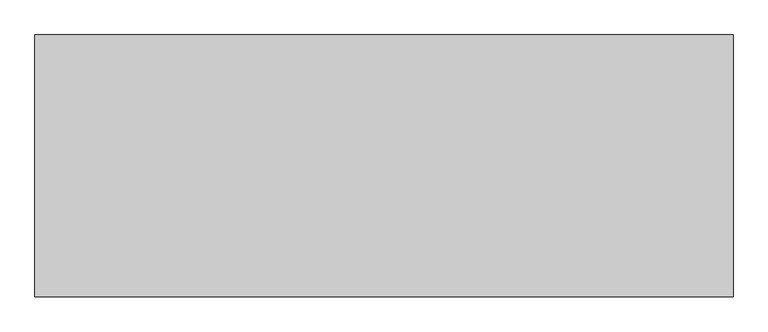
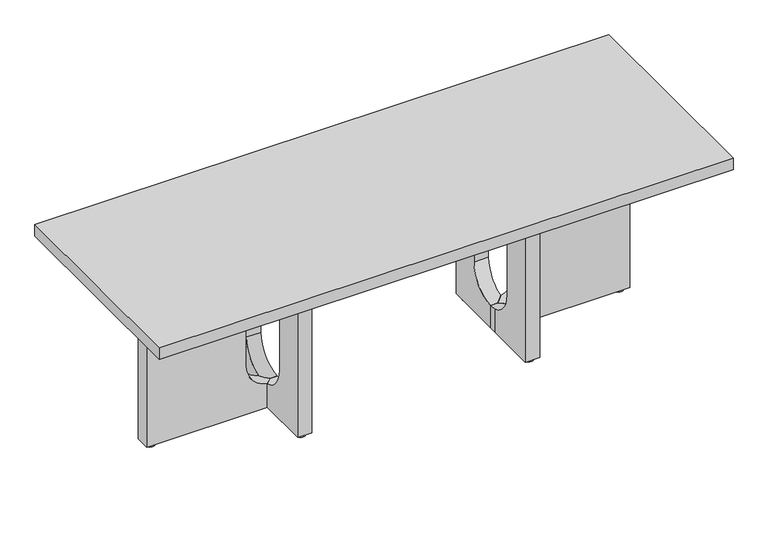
"""IFC4 building model written with IfcOpenShell, lengths in millimetres: furniture geometry, Audo Copenhagen - Androgyne - Lounge Table Stone : Audo Copenhagen - Androgyne - Lounge Table Stone."""

from ifc_helpers import new_model, si_unit, point, frame, frame_2d, origin, origin_with_axes, place, context, project, spatial, polyline, circle_curve, ellipse_curve, trimmed, segment, composite_curve, outline, extrude, source, transform, mapped, element, save
from ifc_brep_helpers import plane_surface, revolved_surface, advanced_brep


def furniture_bf1a82d5(model_context):
    return source(origin(), model_context, "Body", "SolidModel", [
        advanced_brep(
        [(253.0, -125.0, 362.0), (253.0, -14.9999983, 362.0), (237.9999999, -2.6e-06, 362.0), (223.0, -2.6e-06, 362.0), (223.0, -16.0000002, 362.0), (223.0, -125.0, 362.0), (253.0, -125.0, 7.0), (223.0, -125.0, 7.0), (223.0, -16.0000002, 7.0), (223.0, -2.6e-06, 7.0), (237.9999999, -2.6e-06, 7.0), (253.0, -14.9999983, 7.0), (253.0, -14.9999983, 58.9052494), (253.0, -60.0000001, 117.0), (253.0, -60.0000001, 251.0), (253.0, -14.9999983, 309.0947507), (223.0, -16.0000002, 308.8273292), (223.0, -60.0000001, 251.0), (223.0, -60.0000001, 117.0), (223.0, -16.0000002, 59.1726709), (237.9999999, -2.6e-06, 311.0), (237.9999999, -2.6e-06, 57.0), (223.0, -2.6e-06, 311.0), (223.0, -2.6e-06, 57.0)],
        [
            (0, 1),
            (1, 2),
            (2, 3),
            (3, 4),
            (4, 5),
            (5, 0),
            (6, 7),
            (7, 8),
            (8, 9),
            (9, 10),
            (10, 11),
            (11, 6),
            (0, 6),
            (11, 12),
            (12, 13, circle_curve(frame((253.0, 0.0, 117.0), z_axis=(-1.0, 0.0, 0.0), x_axis=(0.0, 1.0, 0.0)), 60.0)),
            (13, 14),
            (14, 15, circle_curve(frame((253.0, 0.0, 251.0), z_axis=(-1.0, 0.0, 0.0), x_axis=(0.0, 1.0, 0.0)), 60.0)),
            (15, 1),
            (4, 16),
            (16, 17, circle_curve(frame((223.0, 0.0, 251.0), z_axis=(1.0, 0.0, 0.0), x_axis=(0.0, 1.0, 0.0)), 60.0)),
            (17, 18),
            (18, 19, circle_curve(frame((223.0, 0.0, 117.0), z_axis=(1.0, 0.0, 0.0), x_axis=(0.0, 1.0, 0.0)), 60.0)),
            (19, 8),
            (7, 5),
            (15, 20, ellipse_curve(frame((237.9999973, 0.0, 251.0), z_axis=(-0.707106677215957, -0.7071068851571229, 0.0), x_axis=(0.7071068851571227, -0.7071066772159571, 0.0)), 84.8528263, 60.0)),
            (20, 2),
            (10, 21),
            (21, 12, ellipse_curve(frame((237.9999973, 0.0, 117.0), z_axis=(-0.707106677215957, -0.7071068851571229, 0.0), x_axis=(0.7071068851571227, -0.7071066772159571, 0.0)), 84.8528263, 60.0)),
            (3, 22),
            (22, 16, circle_curve(frame((223.0, 0.0, 251.0), z_axis=(1.0, 0.0, 0.0), x_axis=(0.0, 1.0, 0.0)), 60.0)),
            (19, 23, circle_curve(frame((223.0, 0.0, 117.0), z_axis=(1.0, 0.0, 0.0), x_axis=(0.0, 1.0, 0.0)), 60.0)),
            (23, 9),
            (20, 22),
            (23, 21),
            (18, 13),
            (17, 14),
        ],
        [
            plane_surface(frame((253.0, -444.0000002, 362.0), z_axis=(0.0, 0.0, 1.0), x_axis=(0.0, 1.0, 0.0))),
            plane_surface(frame((253.0, -444.0000002, 7.0), z_axis=(0.0, 0.0, -1.0), x_axis=(0.0, -1.0, 0.0))),
            plane_surface(frame((253.0, -125.0, 362.0), z_axis=(1.0, 0.0, 0.0), x_axis=(0.0, 0.0, -1.0))),
            plane_surface(frame((223.0, -16.0000002, 362.0), z_axis=(-1.0, 0.0, 0.0), x_axis=(0.0, 0.0, -1.0))),
            plane_surface(frame((223.0, -125.0, 362.0), z_axis=(0.0, -1.0, 0.0), x_axis=(0.0, 0.0, -1.0))),
            plane_surface(frame((253.0, -14.9999983, 362.0), z_axis=(0.707106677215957, 0.7071068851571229, 0.0), x_axis=(0.0, 0.0, -1.0))),
            plane_surface(frame((223.0, -2.6e-06, 362.0), z_axis=(-1.0, 0.0, 0.0), x_axis=(0.0, 0.0, -1.0))),
            plane_surface(frame((237.9999999, -2.6e-06, 362.0), z_axis=(0.0, 1.0, 0.0), x_axis=(0.0, 0.0, -1.0))),
            revolved_surface(polyline([(298.0000150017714, 60.0, 117.0), (177.9999795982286, 60.0, 117.0)]), (221.9999999, 0.0, 117.0), (1.0, 0.0, 0.0)),
            plane_surface(frame((253.9999999, -60.0000001, 251.0), z_axis=(0.0, 1.0, 0.0), x_axis=(-1.0, 0.0, 0.0))),
            revolved_surface(polyline([(298.0000150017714, 60.0, 251.0), (177.9999795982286, 60.0, 251.0)]), (221.9999999, 0.0, 251.0), (1.0, 0.0, 0.0)),
        ],
        [
            (0, [[1, 2, 3, 4, 5, 6]]),
            (1, [[7, 8, 9, 10, 11, 12]]),
            (2, [[-1, 13, -12, 14, 15, 16, 17, 18]]),
            (3, [[-5, 19, 20, 21, 22, 23, -8, 24]]),
            (4, [[-6, -24, -7, -13]]),
            (5, [[-2, -18, 25, 26]]),
            (5, [[-11, 27, 28, -14]]),
            (6, [[-4, 29, 30, -19]]),
            (6, [[-9, -23, 31, 32]]),
            (7, [[-3, -26, 33, -29]]),
            (7, [[-10, -32, 34, -27]]),
            (8, [[35, -15, -28, -34, -31, -22]]),
            (9, [[-35, -21, 36, -16]]),
            (10, [[-36, -20, -30, -33, -25, -17]]),
        ],
    ),
        advanced_brep(
        [(253.0, 125.0, 362.0), (223.0, 125.0, 362.0), (223.0, 2.6e-06, 362.0), (238.0000007, 2.6e-06, 362.0), (253.0, 14.9999975, 362.0), (253.0, 125.0, 7.0), (253.0, 14.9999975, 7.0), (238.0000007, 2.6e-06, 7.0), (223.0, 2.6e-06, 7.0), (223.0, 125.0, 7.0), (253.0, 14.9999975, 309.0947509), (253.0, 60.0, 251.0), (253.0, 60.0, 117.0), (253.0, 14.9999975, 58.9052492), (223.0, 2.6e-06, 57.0), (223.0, 60.0, 117.0), (223.0, 60.0000001, 251.0), (223.0, 2.6e-06, 311.0), (238.0000007, 2.6e-06, 311.0), (238.0000007, 2.6e-06, 57.0)],
        [
            (0, 1),
            (1, 2),
            (2, 3),
            (3, 4),
            (4, 0),
            (5, 6),
            (6, 7),
            (7, 8),
            (8, 9),
            (9, 5),
            (4, 10),
            (10, 11, circle_curve(frame((253.0, 0.0, 251.0), z_axis=(-1.0, 0.0, 0.0), x_axis=(0.0, -1.0, 0.0)), 60.0)),
            (11, 12),
            (12, 13, circle_curve(frame((253.0, 0.0, 117.0), z_axis=(-1.0, 0.0, 0.0), x_axis=(0.0, -1.0, 0.0)), 60.0)),
            (13, 6),
            (5, 0),
            (1, 9),
            (8, 14),
            (14, 15, circle_curve(frame((223.0, 0.0, 117.0), z_axis=(1.0, 0.0, 0.0), x_axis=(0.0, -1.0, 0.0)), 60.0)),
            (15, 16),
            (16, 17, circle_curve(frame((223.0, 0.0, 251.0), z_axis=(1.0, 0.0, 0.0), x_axis=(0.0, -1.0, 0.0)), 60.0)),
            (17, 2),
            (3, 18),
            (18, 10, ellipse_curve(frame((237.9999981, 0.0, 251.0), z_axis=(-0.7071066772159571, 0.7071068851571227, 0.0), x_axis=(0.7071068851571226, 0.7071066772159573, 0.0)), 84.8528263, 60.0)),
            (13, 19, ellipse_curve(frame((237.9999981, 0.0, 117.0), z_axis=(-0.7071066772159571, 0.7071068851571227, 0.0), x_axis=(0.7071068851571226, 0.7071066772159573, 0.0)), 84.8528263, 60.0)),
            (19, 7),
            (17, 18),
            (19, 14),
            (15, 12),
            (11, 16),
        ],
        [
            plane_surface(frame((224.0, 125.0, 362.0), z_axis=(0.0, 0.0, 1.0), x_axis=(-1.0, 0.0, 0.0))),
            plane_surface(frame((224.0, 125.0, 7.0), z_axis=(0.0, 0.0, -1.0), x_axis=(1.0, 0.0, 0.0))),
            plane_surface(frame((253.0, 14.9999975, 362.0), z_axis=(1.0, 0.0, 0.0), x_axis=(0.0, 0.0, -1.0))),
            plane_surface(frame((223.0, 125.0, 362.0), z_axis=(-1.0, 0.0, 0.0), x_axis=(0.0, 0.0, -1.0))),
            plane_surface(frame((253.0, 125.0, 362.0), z_axis=(0.0, 1.0, 0.0), x_axis=(0.0, 0.0, -1.0))),
            plane_surface(frame((238.0000007, 2.6e-06, 362.0), z_axis=(0.7071066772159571, -0.7071068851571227, 0.0), x_axis=(0.0, 0.0, -1.0))),
            plane_surface(frame((223.0, 2.6e-06, 362.0), z_axis=(0.0, -1.0, 0.0), x_axis=(0.0, 0.0, -1.0))),
            plane_surface(frame((253.9999999, 60.0, 117.0), z_axis=(0.0, -1.0, 3.1942383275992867e-10), x_axis=(-1.0, 0.0, 0.0))),
            revolved_surface(polyline([(298.0000158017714, -60.0, 117.0), (177.99998039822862, -60.0, 117.0)]), (221.9999999, 0.0, 117.0), (1.0, 0.0, 0.0)),
            revolved_surface(polyline([(298.0000158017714, -60.0, 251.0), (177.99998039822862, -60.0, 251.0)]), (221.9999999, 0.0, 251.0), (1.0, 0.0, 0.0)),
        ],
        [
            (0, [[1, 2, 3, 4, 5]]),
            (1, [[6, 7, 8, 9, 10]]),
            (2, [[-5, 11, 12, 13, 14, 15, -6, 16]]),
            (3, [[-2, 17, -9, 18, 19, 20, 21, 22]]),
            (4, [[-1, -16, -10, -17]]),
            (5, [[-4, 23, 24, -11]]),
            (5, [[-7, -15, 25, 26]]),
            (6, [[-3, -22, 27, -23]]),
            (6, [[-8, -26, 28, -18]]),
            (7, [[29, -13, 30, -20]]),
            (8, [[-29, -19, -28, -25, -14]]),
            (9, [[-30, -12, -24, -27, -21]]),
        ],
    ),
        advanced_brep(
        [(505.0, -15.0, 362.0), (505.0, 15.0, 362.0), (252.9999988, 15.0, 362.0), (237.999999, 0.0, 362.0), (252.9999945, -15.0, 362.0), (505.0, -15.0, 7.0), (252.9999945, -15.0, 7.0), (237.999999, 0.0, 7.0), (252.9999988, 15.0, 7.0), (505.0, 15.0, 7.0), (252.9999945, -15.0, 309.0947516), (298.0, -15.0, 251.0), (298.0, -15.0, 117.0), (252.9999945, -15.0, 58.9052484), (252.9999988, 15.0, 58.9052495), (298.0, 15.0, 117.0), (298.0, 15.0, 251.0), (252.9999988, 15.0, 309.0947505), (237.999999, 0.0, 311.0), (237.999999, 0.0, 57.0)],
        [
            (0, 1),
            (1, 2),
            (2, 3),
            (3, 4),
            (4, 0),
            (5, 6),
            (6, 7),
            (7, 8),
            (8, 9),
            (9, 5),
            (4, 10),
            (10, 11, circle_curve(frame((237.9999999, -15.0, 251.0), z_axis=(0.0, 1.0, 0.0), x_axis=(-1.0, 0.0, 0.0)), 60.0)),
            (11, 12),
            (12, 13, circle_curve(frame((237.9999999, -15.0, 117.0), z_axis=(0.0, 1.0, 0.0), x_axis=(-1.0, 0.0, 0.0)), 60.0)),
            (13, 6),
            (5, 0),
            (1, 9),
            (8, 14),
            (14, 15, circle_curve(frame((237.9999999, 15.0, 117.0), z_axis=(0.0, -1.0, 0.0), x_axis=(-1.0, 0.0, 0.0)), 60.0)),
            (15, 16),
            (16, 17, circle_curve(frame((237.9999999, 15.0, 251.0), z_axis=(0.0, -1.0, 0.0), x_axis=(-1.0, 0.0, 0.0)), 60.0)),
            (17, 2),
            (3, 18),
            (18, 10, ellipse_curve(frame((237.9999999, -1e-06, 251.0), z_axis=(0.7071068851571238, 0.707106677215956, 0.0), x_axis=(0.7071066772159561, -0.7071068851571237, 0.0)), 84.8528263, 60.0)),
            (13, 19, ellipse_curve(frame((237.9999999, -1e-06, 117.0), z_axis=(0.7071068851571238, 0.707106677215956, 0.0), x_axis=(0.7071066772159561, -0.7071068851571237, 0.0)), 84.8528263, 60.0)),
            (19, 7),
            (17, 18, ellipse_curve(frame((237.9999999, 9e-07, 251.0), z_axis=(0.7071067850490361, -0.7071067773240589, 0.0), x_axis=(-0.7071067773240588, -0.707106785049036, 0.0)), 84.8528143, 60.0)),
            (19, 14, ellipse_curve(frame((237.9999999, 9e-07, 117.0), z_axis=(0.7071067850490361, -0.7071067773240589, 0.0), x_axis=(-0.7071067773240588, -0.707106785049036, 0.0)), 84.8528143, 60.0)),
            (15, 12),
            (11, 16),
        ],
        [
            plane_surface(frame((505.0, 15.0, 362.0), z_axis=(0.0, 0.0, 1.0), x_axis=(0.0, 1.0, 0.0))),
            plane_surface(frame((505.0, 15.0, 7.0), z_axis=(0.0, 0.0, -1.0), x_axis=(0.0, -1.0, 0.0))),
            plane_surface(frame((252.9999945, -15.0, 362.0), z_axis=(0.0, -1.0, 0.0), x_axis=(0.0, 0.0, -1.0))),
            plane_surface(frame((505.0, 15.0, 362.0), z_axis=(0.0, 1.0, 0.0), x_axis=(0.0, 0.0, -1.0))),
            plane_surface(frame((505.0, -15.0, 362.0), z_axis=(1.0, 0.0, 0.0), x_axis=(0.0, 0.0, -1.0))),
            plane_surface(frame((237.999999, 0.0, 362.0), z_axis=(-0.7071068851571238, -0.707106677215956, 0.0), x_axis=(0.0, 0.0, -1.0))),
            plane_surface(frame((252.9999988, 15.0, 362.0), z_axis=(-0.7071067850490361, 0.7071067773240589, 0.0), x_axis=(0.0, 0.0, -1.0))),
            plane_surface(frame((298.0, -16.0, 117.0), z_axis=(-1.0, 0.0, 3.1942383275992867e-10), x_axis=(0.0, 1.0, 0.0))),
            revolved_surface(polyline([(177.9999999, -60.00001870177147, 117.0), (177.9999999, 60.00001670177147, 117.0)]), (237.9999999, 16.0, 117.0), (0.0, -1.0, 0.0)),
            revolved_surface(polyline([(177.9999999, -60.00001870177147, 251.0), (177.9999999, 60.00001670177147, 251.0)]), (237.9999999, 16.0, 251.0), (0.0, -1.0, 0.0)),
        ],
        [
            (0, [[1, 2, 3, 4, 5]]),
            (1, [[6, 7, 8, 9, 10]]),
            (2, [[-5, 11, 12, 13, 14, 15, -6, 16]]),
            (3, [[-2, 17, -9, 18, 19, 20, 21, 22]]),
            (4, [[-1, -16, -10, -17]]),
            (5, [[-4, 23, 24, -11]]),
            (5, [[-7, -15, 25, 26]]),
            (6, [[-3, -22, 27, -23]]),
            (6, [[-8, -26, 28, -18]]),
            (7, [[29, -13, 30, -20]]),
            (8, [[-29, -19, -28, -25, -14]]),
            (9, [[-30, -12, -24, -27, -21]]),
        ],
    ),
        extrude(outline(composite_curve([segment(trimmed(circle_curve(frame_2d((238.0, 110.0)), 10.0), [point((238.0, 120.0))], [point((238.0, 100.0))], False, "CARTESIAN"), True, "CONTINUOUS"), segment(trimmed(circle_curve(frame_2d((238.0, 110.0)), 10.0), [point((238.0, 100.0))], [point((238.0, 120.0))], False, "CARTESIAN"), True, "CONTINUOUS")], self_intersect=False)), origin_with_axes(), (0.0, 0.0, 1.0), 7.0),
        extrude(outline(composite_curve([segment(trimmed(circle_curve(frame_2d((238.0, -110.0)), 10.0), [point((238.0, -120.0))], [point((238.0, -100.0))], False, "CARTESIAN"), True, "CONTINUOUS"), segment(trimmed(circle_curve(frame_2d((238.0, -110.0)), 10.0), [point((238.0, -100.0))], [point((238.0, -120.0))], False, "CARTESIAN"), True, "CONTINUOUS")], self_intersect=False)), origin_with_axes(), (0.0, 0.0, 1.0), 7.0),
        extrude(outline(composite_curve([segment(trimmed(circle_curve(frame_2d((490.0, 0.0)), 10.0), [point((500.0, 0.0))], [point((480.0, 0.0))], False, "CARTESIAN"), True, "CONTINUOUS"), segment(trimmed(circle_curve(frame_2d((490.0, 0.0)), 10.0), [point((480.0, 0.0))], [point((500.0, 0.0))], False, "CARTESIAN"), True, "CONTINUOUS")], self_intersect=False)), origin_with_axes(), (0.0, 0.0, 1.0), 7.0),
        extrude(outline(composite_curve([segment(trimmed(circle_curve(frame_2d((-238.0, 110.0)), 10.0), [point((-238.0, 120.0))], [point((-238.0, 100.0))], False, "CARTESIAN"), True, "CONTINUOUS"), segment(trimmed(circle_curve(frame_2d((-238.0, 110.0)), 10.0), [point((-238.0, 100.0))], [point((-238.0, 120.0))], False, "CARTESIAN"), True, "CONTINUOUS")], self_intersect=False)), origin_with_axes(), (0.0, 0.0, 1.0), 7.0),
        advanced_brep(
        [(-253.0, 125.0, 362.0), (-253.0, 14.9999975, 362.0), (-238.0000007, 2.6e-06, 362.0), (-223.0, 2.6e-06, 362.0), (-223.0, 125.0, 362.0), (-253.0, 125.0, 7.0), (-223.0, 125.0, 7.0), (-223.0, 2.6e-06, 7.0), (-238.0000007, 2.6e-06, 7.0), (-253.0, 14.9999975, 7.0), (-253.0, 14.9999975, 58.9052492), (-253.0, 60.0, 117.0), (-253.0, 60.0000001, 251.0), (-253.0, 14.9999975, 309.0947509), (-223.0, 2.6e-06, 311.0), (-223.0, 60.0, 251.0), (-223.0, 60.0, 117.0), (-223.0, 2.6e-06, 57.0), (-238.0000007, 2.6e-06, 311.0), (-238.0000007, 2.6e-06, 57.0)],
        [
            (0, 1),
            (1, 2),
            (2, 3),
            (3, 4),
            (4, 0),
            (5, 6),
            (6, 7),
            (7, 8),
            (8, 9),
            (9, 5),
            (0, 5),
            (9, 10),
            (10, 11, circle_curve(frame((-253.0, 0.0, 117.0), z_axis=(1.0, 0.0, 0.0), x_axis=(0.0, -1.0, 0.0)), 60.0)),
            (11, 12),
            (12, 13, circle_curve(frame((-253.0, 0.0, 251.0), z_axis=(1.0, 0.0, 0.0), x_axis=(0.0, -1.0, 0.0)), 60.0)),
            (13, 1),
            (3, 14),
            (14, 15, circle_curve(frame((-223.0, 0.0, 251.0), z_axis=(-1.0, 0.0, 0.0), x_axis=(0.0, -1.0, 0.0)), 60.0)),
            (15, 16),
            (16, 17, circle_curve(frame((-223.0, 0.0, 117.0), z_axis=(-1.0, 0.0, 0.0), x_axis=(0.0, -1.0, 0.0)), 60.0)),
            (17, 7),
            (6, 4),
            (13, 18, ellipse_curve(frame((-237.9999981, 0.0, 251.0), z_axis=(0.7071066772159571, 0.7071068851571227, 0.0), x_axis=(-0.7071068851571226, 0.7071066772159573, 0.0)), 84.8528263, 60.0)),
            (18, 2),
            (8, 19),
            (19, 10, ellipse_curve(frame((-237.9999981, 0.0, 117.0), z_axis=(0.7071066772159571, 0.7071068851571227, 0.0), x_axis=(-0.7071068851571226, 0.7071066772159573, 0.0)), 84.8528263, 60.0)),
            (18, 14),
            (17, 19),
            (15, 12),
            (11, 16),
        ],
        [
            plane_surface(frame((-253.0, 444.0000002, 362.0), z_axis=(0.0, 0.0, 1.0), x_axis=(0.0, -1.0, 0.0))),
            plane_surface(frame((-253.0, 444.0000002, 7.0), z_axis=(0.0, 0.0, -1.0), x_axis=(0.0, 1.0, 0.0))),
            plane_surface(frame((-253.0, 125.0, 362.0), z_axis=(-1.0, 0.0, 0.0), x_axis=(0.0, 0.0, -1.0))),
            plane_surface(frame((-223.0, 2.6e-06, 362.0), z_axis=(1.0, 0.0, 0.0), x_axis=(0.0, 0.0, -1.0))),
            plane_surface(frame((-223.0, 125.0, 362.0), z_axis=(0.0, 1.0, 0.0), x_axis=(0.0, 0.0, -1.0))),
            plane_surface(frame((-253.0, 14.9999975, 362.0), z_axis=(-0.7071066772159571, -0.7071068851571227, 0.0), x_axis=(0.0, 0.0, -1.0))),
            plane_surface(frame((-238.0000007, 2.6e-06, 362.0), z_axis=(0.0, -1.0, 0.0), x_axis=(0.0, 0.0, -1.0))),
            plane_surface(frame((-253.9999999, 60.0000001, 251.0), z_axis=(0.0, -1.0, 3.1942383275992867e-10), x_axis=(1.0, 0.0, 0.0))),
            revolved_surface(polyline([(-298.0000158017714, -60.0, 117.0), (-177.99998039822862, -60.0, 117.0)]), (-221.9999999, 0.0, 117.0), (-1.0, 0.0, 0.0)),
            revolved_surface(polyline([(-298.0000158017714, -60.0, 251.0), (-177.99998039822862, -60.0, 251.0)]), (-221.9999999, 0.0, 251.0), (-1.0, 0.0, 0.0)),
        ],
        [
            (0, [[1, 2, 3, 4, 5]]),
            (1, [[6, 7, 8, 9, 10]]),
            (2, [[-1, 11, -10, 12, 13, 14, 15, 16]]),
            (3, [[-4, 17, 18, 19, 20, 21, -7, 22]]),
            (4, [[-5, -22, -6, -11]]),
            (5, [[-2, -16, 23, 24]]),
            (5, [[-9, 25, 26, -12]]),
            (6, [[-3, -24, 27, -17]]),
            (6, [[-8, -21, 28, -25]]),
            (7, [[29, -14, 30, -19]]),
            (8, [[-30, -13, -26, -28, -20]]),
            (9, [[-29, -18, -27, -23, -15]]),
        ],
    ),
        advanced_brep(
        [(-253.0, -125.0, 362.0), (-223.0, -125.0, 362.0), (-223.0, -16.0000002, 362.0), (-223.0, -2.6e-06, 362.0), (-237.9999999, -2.6e-06, 362.0), (-253.0, -14.9999983, 362.0), (-253.0, -125.0, 7.0), (-253.0, -14.9999983, 7.0), (-237.9999999, -2.6e-06, 7.0), (-223.0, -2.6e-06, 7.0), (-223.0, -16.0000002, 7.0), (-223.0, -125.0, 7.0), (-253.0, -14.9999983, 309.0947507), (-253.0, -60.0000001, 251.0), (-253.0, -60.0000001, 117.0), (-253.0, -14.9999983, 58.9052494), (-223.0, -16.0000002, 59.1726709), (-223.0, -60.0000001, 117.0), (-223.0, -60.0000001, 251.0), (-223.0, -16.0000002, 308.8273292), (-237.9999999, -2.6e-06, 311.0), (-237.9999999, -2.6e-06, 57.0), (-223.0, -2.6e-06, 311.0), (-223.0, -2.6e-06, 57.0)],
        [
            (0, 1),
            (1, 2),
            (2, 3),
            (3, 4),
            (4, 5),
            (5, 0),
            (6, 7),
            (7, 8),
            (8, 9),
            (9, 10),
            (10, 11),
            (11, 6),
            (5, 12),
            (12, 13, circle_curve(frame((-253.0, 0.0, 251.0), z_axis=(1.0, 0.0, 0.0), x_axis=(0.0, 1.0, 0.0)), 60.0)),
            (13, 14),
            (14, 15, circle_curve(frame((-253.0, 0.0, 117.0), z_axis=(1.0, 0.0, 0.0), x_axis=(0.0, 1.0, 0.0)), 60.0)),
            (15, 7),
            (6, 0),
            (1, 11),
            (10, 16),
            (16, 17, circle_curve(frame((-223.0, 0.0, 117.0), z_axis=(-1.0, 0.0, 0.0), x_axis=(0.0, 1.0, 0.0)), 60.0)),
            (17, 18),
            (18, 19, circle_curve(frame((-223.0, 0.0, 251.0), z_axis=(-1.0, 0.0, 0.0), x_axis=(0.0, 1.0, 0.0)), 60.0)),
            (19, 2),
            (4, 20),
            (20, 12, ellipse_curve(frame((-237.9999973, 0.0, 251.0), z_axis=(0.707106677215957, -0.7071068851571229, 0.0), x_axis=(-0.7071068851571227, -0.7071066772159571, 0.0)), 84.8528263, 60.0)),
            (15, 21, ellipse_curve(frame((-237.9999973, 0.0, 117.0), z_axis=(0.707106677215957, -0.7071068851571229, 0.0), x_axis=(-0.7071068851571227, -0.7071066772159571, 0.0)), 84.8528263, 60.0)),
            (21, 8),
            (19, 22, circle_curve(frame((-223.0, 0.0, 251.0), z_axis=(-1.0, 0.0, 0.0), x_axis=(0.0, 1.0, 0.0)), 60.0)),
            (22, 3),
            (9, 23),
            (23, 16, circle_curve(frame((-223.0, 0.0, 117.0), z_axis=(-1.0, 0.0, 0.0), x_axis=(0.0, 1.0, 0.0)), 60.0)),
            (22, 20),
            (21, 23),
            (14, 17),
            (13, 18),
        ],
        [
            plane_surface(frame((-224.0, -125.0, 362.0), z_axis=(0.0, 0.0, 1.0), x_axis=(1.0, 0.0, 0.0))),
            plane_surface(frame((-224.0, -125.0, 7.0), z_axis=(0.0, 0.0, -1.0), x_axis=(-1.0, 0.0, 0.0))),
            plane_surface(frame((-253.0, -14.9999983, 362.0), z_axis=(-1.0, 0.0, 0.0), x_axis=(0.0, 0.0, -1.0))),
            plane_surface(frame((-223.0, -125.0, 362.0), z_axis=(1.0, 0.0, 0.0), x_axis=(0.0, 0.0, -1.0))),
            plane_surface(frame((-253.0, -125.0, 362.0), z_axis=(0.0, -1.0, 0.0), x_axis=(0.0, 0.0, -1.0))),
            plane_surface(frame((-237.9999999, -2.6e-06, 362.0), z_axis=(-0.707106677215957, 0.7071068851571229, 0.0), x_axis=(0.0, 0.0, -1.0))),
            plane_surface(frame((-223.0, -16.0000002, 362.0), z_axis=(1.0, 0.0, 0.0), x_axis=(0.0, 0.0, -1.0))),
            plane_surface(frame((-223.0, -2.6e-06, 362.0), z_axis=(0.0, 1.0, 0.0), x_axis=(0.0, 0.0, -1.0))),
            revolved_surface(polyline([(-298.0000150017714, 60.0, 117.0), (-177.9999795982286, 60.0, 117.0)]), (-221.9999999, 0.0, 117.0), (-1.0, 0.0, 0.0)),
            plane_surface(frame((-253.9999999, -60.0000001, 117.0), z_axis=(0.0, 1.0, 0.0), x_axis=(1.0, 0.0, 0.0))),
            revolved_surface(polyline([(-298.0000150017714, 60.0, 251.0), (-177.9999795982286, 60.0, 251.0)]), (-221.9999999, 0.0, 251.0), (-1.0, 0.0, 0.0)),
        ],
        [
            (0, [[1, 2, 3, 4, 5, 6]]),
            (1, [[7, 8, 9, 10, 11, 12]]),
            (2, [[-6, 13, 14, 15, 16, 17, -7, 18]]),
            (3, [[-2, 19, -11, 20, 21, 22, 23, 24]]),
            (4, [[-1, -18, -12, -19]]),
            (5, [[-5, 25, 26, -13]]),
            (5, [[-8, -17, 27, 28]]),
            (6, [[-3, -24, 29, 30]]),
            (6, [[-10, 31, 32, -20]]),
            (7, [[-4, -30, 33, -25]]),
            (7, [[-9, -28, 34, -31]]),
            (8, [[35, -21, -32, -34, -27, -16]]),
            (9, [[-35, -15, 36, -22]]),
            (10, [[-36, -14, -26, -33, -29, -23]]),
        ],
    ),
        extrude(outline(composite_curve([segment(trimmed(circle_curve(frame_2d((-238.0, -110.0)), 10.0), [point((-238.0, -120.0))], [point((-238.0, -100.0))], False, "CARTESIAN"), True, "CONTINUOUS"), segment(trimmed(circle_curve(frame_2d((-238.0, -110.0)), 10.0), [point((-238.0, -100.0))], [point((-238.0, -120.0))], False, "CARTESIAN"), True, "CONTINUOUS")], self_intersect=False)), origin_with_axes(), (0.0, 0.0, 1.0), 7.0),
        extrude(outline(composite_curve([segment(trimmed(circle_curve(frame_2d((-490.0, 0.0)), 10.0), [point((-500.0, 0.0))], [point((-480.0, 0.0))], False, "CARTESIAN"), True, "CONTINUOUS"), segment(trimmed(circle_curve(frame_2d((-490.0, 0.0)), 10.0), [point((-480.0, 0.0))], [point((-500.0, 0.0))], False, "CARTESIAN"), True, "CONTINUOUS")], self_intersect=False)), origin_with_axes(), (0.0, 0.0, 1.0), 7.0),
        advanced_brep(
        [(-505.0, -15.0, 362.0), (-252.9999945, -15.0, 362.0), (-237.999999, 0.0, 362.0), (-252.9999988, 15.0, 362.0), (-505.0, 15.0, 362.0), (-505.0, -15.0, 7.0), (-505.0, 15.0, 7.0), (-252.9999988, 15.0, 7.0), (-237.999999, 0.0, 7.0), (-252.9999945, -15.0, 7.0), (-252.9999945, -15.0, 58.9052484), (-298.0, -15.0, 117.0), (-298.0, -15.0, 251.0), (-252.9999945, -15.0, 309.0947516), (-252.9999988, 15.0, 309.0947505), (-298.0, 15.0, 251.0), (-298.0, 15.0, 117.0), (-252.9999988, 15.0, 58.9052495), (-237.999999, 0.0, 311.0), (-237.999999, 0.0, 57.0)],
        [
            (0, 1),
            (1, 2),
            (2, 3),
            (3, 4),
            (4, 0),
            (5, 6),
            (6, 7),
            (7, 8),
            (8, 9),
            (9, 5),
            (0, 5),
            (9, 10),
            (10, 11, circle_curve(frame((-237.9999999, -15.0, 117.0), z_axis=(0.0, 1.0, 0.0), x_axis=(1.0, 0.0, 0.0)), 60.0)),
            (11, 12),
            (12, 13, circle_curve(frame((-237.9999999, -15.0, 251.0), z_axis=(0.0, 1.0, 0.0), x_axis=(1.0, 0.0, 0.0)), 60.0)),
            (13, 1),
            (3, 14),
            (14, 15, circle_curve(frame((-237.9999999, 15.0, 251.0), z_axis=(0.0, -1.0, 0.0), x_axis=(1.0, 0.0, 0.0)), 60.0)),
            (15, 16),
            (16, 17, circle_curve(frame((-237.9999999, 15.0, 117.0), z_axis=(0.0, -1.0, 0.0), x_axis=(1.0, 0.0, 0.0)), 60.0)),
            (17, 7),
            (6, 4),
            (13, 18, ellipse_curve(frame((-237.9999999, -1e-06, 251.0), z_axis=(-0.7071068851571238, 0.707106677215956, 0.0), x_axis=(-0.7071066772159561, -0.7071068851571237, 0.0)), 84.8528263, 60.0)),
            (18, 2),
            (8, 19),
            (19, 10, ellipse_curve(frame((-237.9999999, -1e-06, 117.0), z_axis=(-0.7071068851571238, 0.707106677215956, 0.0), x_axis=(-0.7071066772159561, -0.7071068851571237, 0.0)), 84.8528263, 60.0)),
            (18, 14, ellipse_curve(frame((-237.9999999, 9e-07, 251.0), z_axis=(-0.7071067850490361, -0.7071067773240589, 0.0), x_axis=(0.7071067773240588, -0.707106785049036, 0.0)), 84.8528143, 60.0)),
            (17, 19, ellipse_curve(frame((-237.9999999, 9e-07, 117.0), z_axis=(-0.7071067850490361, -0.7071067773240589, 0.0), x_axis=(0.7071067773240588, -0.707106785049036, 0.0)), 84.8528143, 60.0)),
            (15, 12),
            (11, 16),
        ],
        [
            plane_surface(frame((-682.9999953, -15.0, 362.0), z_axis=(0.0, 0.0, 1.0), x_axis=(1.0, 0.0, 0.0))),
            plane_surface(frame((-682.9999953, -15.0, 7.0), z_axis=(0.0, 0.0, -1.0), x_axis=(-1.0, 0.0, 0.0))),
            plane_surface(frame((-505.0, -15.0, 362.0), z_axis=(0.0, -1.0, 0.0), x_axis=(0.0, 0.0, -1.0))),
            plane_surface(frame((-252.9999988, 15.0, 362.0), z_axis=(0.0, 1.0, 0.0), x_axis=(0.0, 0.0, -1.0))),
            plane_surface(frame((-505.0, 15.0, 362.0), z_axis=(-1.0, 0.0, 0.0), x_axis=(0.0, 0.0, -1.0))),
            plane_surface(frame((-252.9999945, -15.0, 362.0), z_axis=(0.7071068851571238, -0.707106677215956, 0.0), x_axis=(0.0, 0.0, -1.0))),
            plane_surface(frame((-237.999999, 0.0, 362.0), z_axis=(0.7071067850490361, 0.7071067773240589, 0.0), x_axis=(0.0, 0.0, -1.0))),
            plane_surface(frame((-298.0, -16.0, 251.0), z_axis=(1.0, 0.0, 3.1942383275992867e-10), x_axis=(0.0, 1.0, 0.0))),
            revolved_surface(polyline([(-177.9999999, -60.00001870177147, 117.0), (-177.9999999, 60.00001670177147, 117.0)]), (-237.9999999, 16.0, 117.0), (0.0, -1.0, 0.0)),
            revolved_surface(polyline([(-177.9999999, -60.00001870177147, 251.0), (-177.9999999, 60.00001670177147, 251.0)]), (-237.9999999, 16.0, 251.0), (0.0, -1.0, 0.0)),
        ],
        [
            (0, [[1, 2, 3, 4, 5]]),
            (1, [[6, 7, 8, 9, 10]]),
            (2, [[-1, 11, -10, 12, 13, 14, 15, 16]]),
            (3, [[-4, 17, 18, 19, 20, 21, -7, 22]]),
            (4, [[-5, -22, -6, -11]]),
            (5, [[-2, -16, 23, 24]]),
            (5, [[-9, 25, 26, -12]]),
            (6, [[-3, -24, 27, -17]]),
            (6, [[-8, -21, 28, -25]]),
            (7, [[29, -14, 30, -19]]),
            (8, [[-30, -13, -26, -28, -20]]),
            (9, [[-29, -18, -27, -23, -15]]),
        ],
    ),
        extrude(outline(polyline([(-600.0, 225.0), (600.0, 225.0), (600.0, -225.0), (-600.0, -225.0), (-600.0, 225.0)])), frame((0.0, 0.0, 362.0), z_axis=(0.0, 0.0, 1.0), x_axis=(1.0, 0.0, 0.0)), (0.0, 0.0, 1.0), 25.0),
    ])


if __name__ == "__main__":
    model = new_model("IFC4")
    model_context = context("Model", 3, world=origin())
    ifc_project = project(units=[si_unit("LENGTHUNIT", "METRE", prefix="MILLI")], contexts=[model_context])
    site = spatial("IfcSite", under=ifc_project)
    building = spatial("IfcBuilding", under=site)
    placement = place(None, origin())
    furniture_shape = furniture_bf1a82d5(model_context)
    element("IfcFurniture", 1, ObjectType="Audo Copenhagen - Androgyne - Lounge Table Stone : Audo Copenhagen - Androgyne - Lounge Table Stone", at=placement, inside=building, context=model_context, shape_type="MappedRepresentation", body=[
        mapped(furniture_shape, transform((0.0, 0.0, 0.0), x_axis=(1.0, 0.0, 0.0), y_axis=(0.0, 1.0, 0.0), z_axis=(0.0, 0.0, 1.0))),
    ])
    save(model, "model.ifc")
